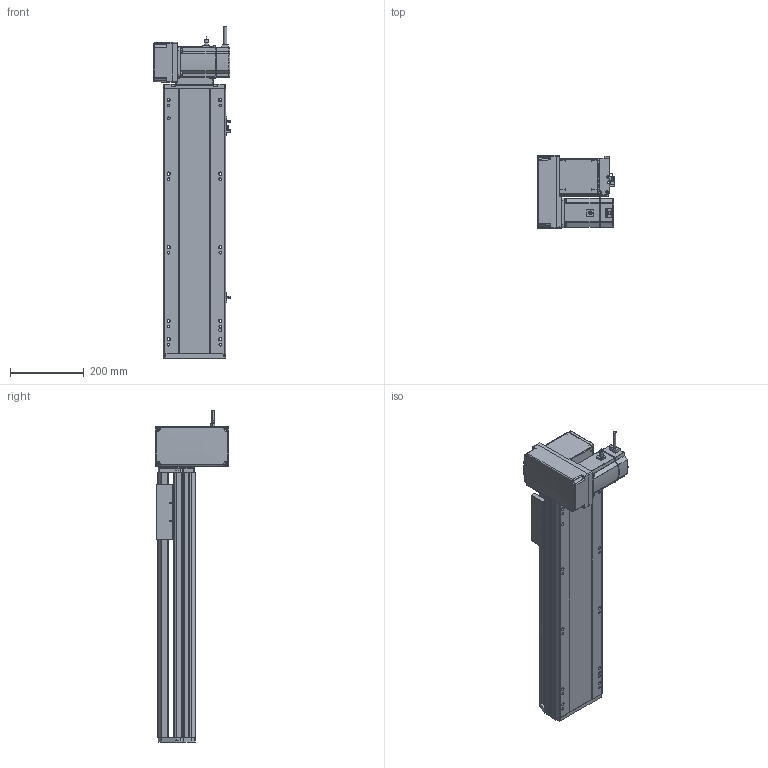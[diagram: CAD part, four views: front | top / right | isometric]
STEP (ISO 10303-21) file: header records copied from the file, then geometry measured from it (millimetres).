
FILE_DESCRIPTION (( 'STEP AP214' ), '1' );
FILE_NAME ('RTB17S-XX-450-LM-M75-C4.STEP', '2025-12-12T00:35:06', ( '' ), ( '' ), 'SwSTEP 2.0', 'SolidWorks 2018', '' );
FILE_SCHEMA (( 'AUTOMOTIVE_DESIGN' ));
Length unit declared in the file: millimetre
Products named in the file (15): RTB17-R-011菁釱^RTB17S-XX-XX-LM-M75-C4; RTB17S-L-014-T20-P75--々湍釱^RTB17S-LM-々湍釱蚾饜-750W_RTB17S-XX-XX-LM-M75-C4; RTH13-BL-012覜茼え俋离^RTB17S-賑釱_RTB17S-XX-XX-LM-M75-C4; 750W萇儂^RTB17S-XX-XX-LM-M75-C4; RTB22S-GY-008-M75--萇儂啣^RTB17S-LM-々湍釱蚾饜-750W_RTB17S-XX-XX-LM-M75-C4; RTB22S-GY-018P^RTB17S-LM-々湍釱蚾饜-750W_RTB17S-XX-XX-LM-M75-C4; RTB22S-GY-017P^RTB17S-LM-々湍釱蚾饜-750W_RTB17S-XX-XX-LM-M75-C4; RTB17S-L-007奻裔^RTB17S-XX-XX-LM-M75-C4; RTB22S-GY-005P^RTB17S-LM-々湍釱蚾饜-750W_RTB17S-XX-XX-LM-M75-C4; RTB17S-L-004-賑釱^RTB17S-賑釱_RTB17S-XX-XX-LM-M75-C4; EE672^RTB17S-XX-XX-LM-M75-C4; RTB17S-LM-々湍釱蚾饜-750W^RTB17S-XX-XX-LM-M75-C4; RTB17S-L-001-耜醱啣^RTB17S-XX-XX-LM-M75-C4; RTB17S-賑釱^RTB17S-XX-XX-LM-M75-C4; RTB17S-XX-450-LM-M75-C4
Assembly tree (17 placements, depth 3):
  RTB17S-XX-450-LM-M75-C4
    RTB17-R-011菁釱^RTB17S-XX-XX-LM-M75-C4
    EE672^RTB17S-XX-XX-LM-M75-C4  x3
    RTB17S-L-001-耜醱啣^RTB17S-XX-XX-LM-M75-C4
    RTB17S-賑釱^RTB17S-XX-XX-LM-M75-C4
      RTB17S-L-004-賑釱^RTB17S-賑釱_RTB17S-XX-XX-LM-M75-C4
      RTH13-BL-012覜茼え俋离^RTB17S-賑釱_RTB17S-XX-XX-LM-M75-C4
    RTB17S-L-007奻裔^RTB17S-XX-XX-LM-M75-C4
    750W萇儂^RTB17S-XX-XX-LM-M75-C4
    RTB17S-LM-々湍釱蚾饜-750W^RTB17S-XX-XX-LM-M75-C4
      RTB17S-L-014-T20-P75--々湍釱^RTB17S-LM-々湍釱蚾饜-750W_RTB17S-XX-XX-LM-M75-C4
      RTB22S-GY-005P^RTB17S-LM-々湍釱蚾饜-750W_RTB17S-XX-XX-LM-M75-C4
      RTB22S-GY-017P^RTB17S-LM-々湍釱蚾饜-750W_RTB17S-XX-XX-LM-M75-C4  x2
      RTB22S-GY-008-M75--萇儂啣^RTB17S-LM-々湍釱蚾饜-750W_RTB17S-XX-XX-LM-M75-C4
      RTB22S-GY-018P^RTB17S-LM-々湍釱蚾饜-750W_RTB17S-XX-XX-LM-M75-C4
Bounding box: 210.4 x 200 x 902.2 mm (x, y, z)
Volume: 8757759.5 mm3; surface area: 1397136.6 mm2
Topology: 17 solids, 17 shells, 2057 faces, 5674 edges, 3662 vertices
Faces by surface type: plane 966, cylinder 675, bspline 294, cone 110, sphere 8, torus 4
Entity records: 56566 total; most frequent: CARTESIAN_POINT 16538, ORIENTED_EDGE 8192, DIRECTION 7682, EDGE_CURVE 4096, AXIS2_PLACEMENT_3D 2682, VERTEX_POINT 2666, VECTOR 2318, LINE 2318
